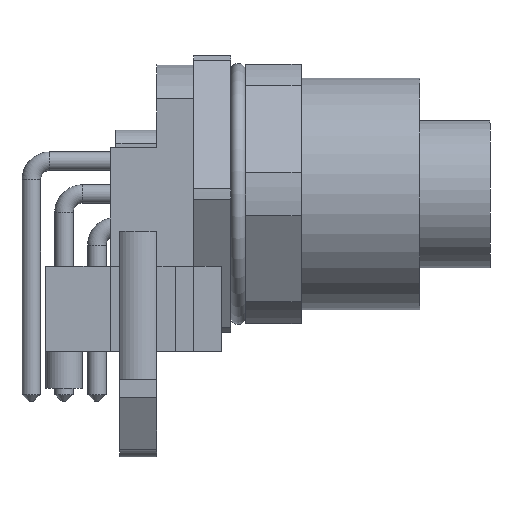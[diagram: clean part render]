
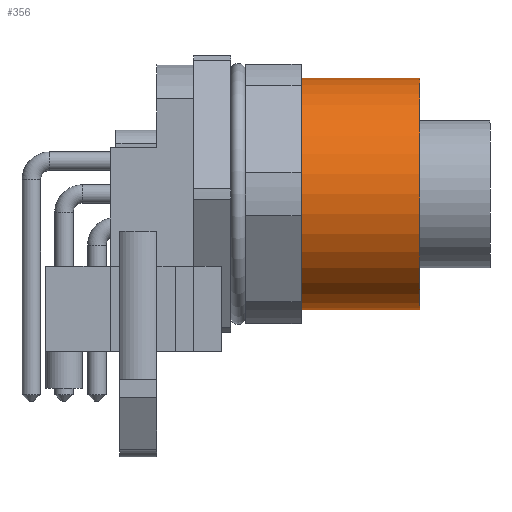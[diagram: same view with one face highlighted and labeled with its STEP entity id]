
A CAD part, left-side view. The second image highlights one B-rep face of the part: STEP entity #356.
In plain terms, the highlighted cylindrical face has radius 6.25 mm (diameter 12.5 mm), a full revolution.
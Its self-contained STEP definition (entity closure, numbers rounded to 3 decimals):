
#329=CARTESIAN_POINT('',(0.0,-2.6,0.));
#330=DIRECTION('',(0.0,1.0,0.0));
#331=DIRECTION('',(0.0,0.0,1.0));
#332=AXIS2_PLACEMENT_3D('',#329,#330,#331);
#333=CYLINDRICAL_SURFACE('',#332,6.25);
#334=CARTESIAN_POINT('',(0.,-5.8,-6.25));
#335=VERTEX_POINT('',#334);
#336=CARTESIAN_POINT('',(0.0,-5.8,0.));
#337=DIRECTION('',(0.0,1.0,0.0));
#338=DIRECTION('',(0.0,0.0,1.0));
#339=AXIS2_PLACEMENT_3D('',#336,#337,#338);
#340=CIRCLE('',#339,6.25);
#341=EDGE_CURVE('',#335,#335,#340,.T.);
#342=ORIENTED_EDGE('',*,*,#341,.F.);
#343=EDGE_LOOP('',(#342));
#344=FACE_OUTER_BOUND('',#343,.T.);
#345=CARTESIAN_POINT('',(0.,-12.2,-6.25));
#346=VERTEX_POINT('',#345);
#347=CARTESIAN_POINT('',(0.0,-12.2,0.));
#348=DIRECTION('',(0.0,1.0,0.0));
#349=DIRECTION('',(0.0,0.0,1.0));
#350=AXIS2_PLACEMENT_3D('',#347,#348,#349);
#351=CIRCLE('',#350,6.25);
#352=EDGE_CURVE('',#346,#346,#351,.T.);
#353=ORIENTED_EDGE('',*,*,#352,.T.);
#354=EDGE_LOOP('',(#353));
#355=FACE_BOUND('',#354,.T.);
#356=ADVANCED_FACE('',(#344,#355),#333,.T.);
